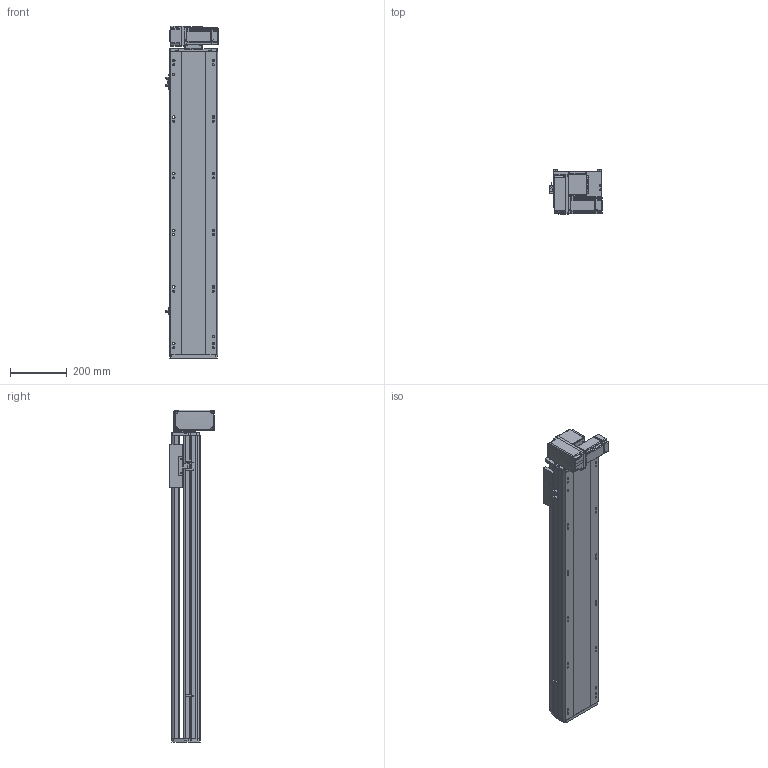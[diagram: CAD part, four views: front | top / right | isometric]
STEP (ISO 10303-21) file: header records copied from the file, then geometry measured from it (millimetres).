
FILE_DESCRIPTION (( 'STEP AP214' ), '1' );
FILE_NAME ('RTB17S-XX-800-LM-M40-C4.STEP', '2025-12-11T06:25:06', ( '' ), ( '' ), 'SwSTEP 2.0', 'SolidWorks 2018', '' );
FILE_SCHEMA (( 'AUTOMOTIVE_DESIGN' ));
Length unit declared in the file: millimetre
Products named in the file (14): RTB17S-XX-800-LM-M40-C4; RTB17S-LM-々湍釱蚾饜-400W^RTB17S-XX-XX-LM-M40-C4; 400W侜督萇儂^RTB17S-XX-XX-LM-M40-C4; RTB14-L-018P^RTB17S-LM-々湍釱蚾饜-400W_RTB17S-XX-XX-LM-M40-C4; RMP17S-L-014-T20--々湍釱^RTB17S-LM-々湍釱蚾饜-400W_RTB17S-XX-XX-LM-M40-C4; RTB14-L-017P^RTB17S-LM-々湍釱蚾饜-400W_RTB17S-XX-XX-LM-M40-C4; RTB14-L-008-M20--萇儂啣^RTB17S-LM-々湍釱蚾饜-400W_RTB17S-XX-XX-LM-M40-C4; RTB14-L-005P--轴承塑胶压盖^RTB17S-LM-皮带座装配-400W_RTB17S-XX-XX-LM-M40-C4; RTB17S-L-001耜醱啣^RTB17S-XX-XX-LM-M40-C4; RTB17-R-011菁釱^RTB17S-XX-XX-LM-M40-C4; RTH13-BL-012覜茼え俋离^RTB17S-XX-XX-LM-M40-C4; RTB17S-L-004佪裝蹟譫蟀諉釱^RTB17S-XX-XX-LM-M40-C4; OMRON EE-SX672 传感器^RTB17S-XX-XX-LM-M40-C4; RTB17S-L-007奻裔^RTB17S-XX-XX-LM-M40-C4
Assembly tree (16 placements, depth 3):
  RTB17S-XX-800-LM-M40-C4
    RTB17-R-011菁釱^RTB17S-XX-XX-LM-M40-C4
    RTB17S-L-007奻裔^RTB17S-XX-XX-LM-M40-C4
    OMRON EE-SX672 传感器^RTB17S-XX-XX-LM-M40-C4  x3
    RTH13-BL-012覜茼え俋离^RTB17S-XX-XX-LM-M40-C4
    RTB17S-L-001耜醱啣^RTB17S-XX-XX-LM-M40-C4
    400W侜督萇儂^RTB17S-XX-XX-LM-M40-C4
    RTB17S-L-004佪裝蹟譫蟀諉釱^RTB17S-XX-XX-LM-M40-C4
    RTB17S-LM-々湍釱蚾饜-400W^RTB17S-XX-XX-LM-M40-C4
      RMP17S-L-014-T20--々湍釱^RTB17S-LM-々湍釱蚾饜-400W_RTB17S-XX-XX-LM-M40-C4
      RTB14-L-005P--轴承塑胶压盖^RTB17S-LM-皮带座装配-400W_RTB17S-XX-XX-LM-M40-C4
      RTB14-L-008-M20--萇儂啣^RTB17S-LM-々湍釱蚾饜-400W_RTB17S-XX-XX-LM-M40-C4
      RTB14-L-017P^RTB17S-LM-々湍釱蚾饜-400W_RTB17S-XX-XX-LM-M40-C4  x2
      RTB14-L-018P^RTB17S-LM-々湍釱蚾饜-400W_RTB17S-XX-XX-LM-M40-C4
Bounding box: 186 x 156.5 x 1172.5 mm (x, y, z)
Volume: 10746006.8 mm3; surface area: 1319307.2 mm2
Topology: 15 solids, 15 shells, 2189 faces, 6033 edges, 3933 vertices
Faces by surface type: plane 1066, cylinder 675, bspline 301, cone 139, torus 8
Entity records: 61865 total; most frequent: CARTESIAN_POINT 17238, ORIENTED_EDGE 8910, DIRECTION 8306, EDGE_CURVE 4455, VERTEX_POINT 2921, AXIS2_PLACEMENT_3D 2851, VECTOR 2604, LINE 2604
